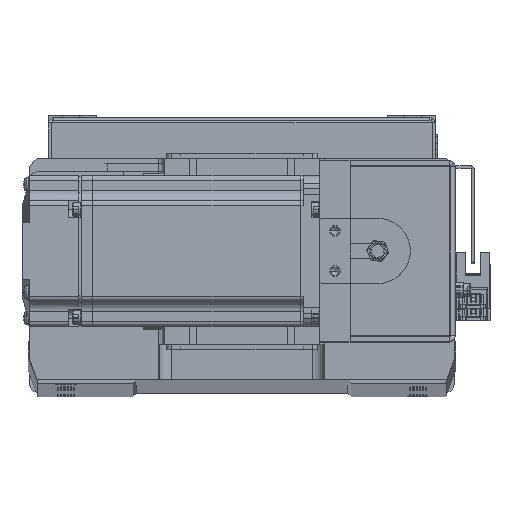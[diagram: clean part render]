
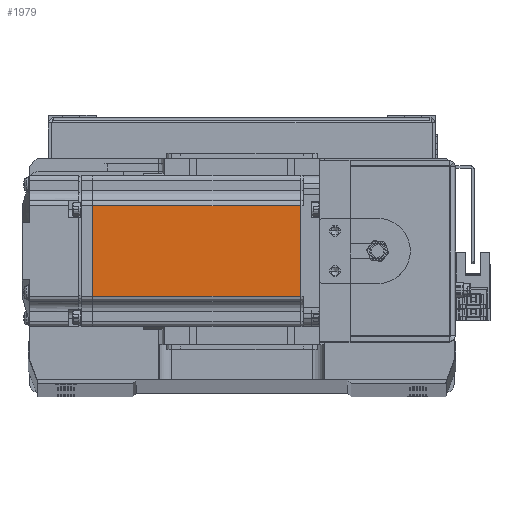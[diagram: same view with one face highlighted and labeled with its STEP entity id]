
A CAD part, top view. The second image highlights one B-rep face of the part: STEP entity #1979.
In plain terms, the highlighted planar face has unit normal (0, 0, 1) as drawn and (0, 1, 0) by its records, which use the part's own axes.
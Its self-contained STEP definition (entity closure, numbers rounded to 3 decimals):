
#1104 = CARTESIAN_POINT ( 'NONE',  ( -90.45, 30., -18. ) ) ;
#1172 = EDGE_CURVE ( 'NONE', #14876, #6880, #16034, .T. ) ;
#1979 = ADVANCED_FACE ( 'NONE', ( #27464 ), #36807, .T. ) ;
#2923 = ORIENTED_EDGE ( 'NONE', *, *, #40930, .T. ) ;
#5328 = LINE ( 'NONE', #37621, #41860 ) ;
#6880 = VERTEX_POINT ( 'NONE', #28726 ) ;
#7459 = VERTEX_POINT ( 'NONE', #1104 ) ;
#9756 = CARTESIAN_POINT ( 'NONE',  ( -6.5, 30., 18. ) ) ;
#9877 = VERTEX_POINT ( 'NONE', #21354 ) ;
#10359 = CARTESIAN_POINT ( 'NONE',  ( -6.5, 30., 25. ) ) ;
#10547 = CARTESIAN_POINT ( 'NONE',  ( -90.45, 30., 18. ) ) ;
#10789 = DIRECTION ( 'NONE',  ( 0., 1., 0. ) ) ;
#11626 = VECTOR ( 'NONE', #30760, 1000. ) ;
#14426 = DIRECTION ( 'NONE',  ( -1., 0., 0. ) ) ;
#14876 = VERTEX_POINT ( 'NONE', #10547 ) ;
#16034 = LINE ( 'NONE', #9756, #36734 ) ;
#20328 = DIRECTION ( 'NONE',  ( 0., 0., 1. ) ) ;
#21344 = CARTESIAN_POINT ( 'NONE',  ( -7.75, 30., 0. ) ) ;
#21354 = CARTESIAN_POINT ( 'NONE',  ( -7.75, 30., -18. ) ) ;
#21663 = LINE ( 'NONE', #24273, #11626 ) ;
#24273 = CARTESIAN_POINT ( 'NONE',  ( -90.45, 30., 0. ) ) ;
#24404 = ORIENTED_EDGE ( 'NONE', *, *, #42777, .F. ) ;
#25147 = AXIS2_PLACEMENT_3D ( 'NONE', #10359, #10789, #20328 ) ;
#27464 = FACE_OUTER_BOUND ( 'NONE', #40072, .T. ) ;
#27864 = DIRECTION ( 'NONE',  ( 0., 0., 1. ) ) ;
#28156 = ORIENTED_EDGE ( 'NONE', *, *, #39951, .T. ) ;
#28726 = CARTESIAN_POINT ( 'NONE',  ( -7.75, 30., 18. ) ) ;
#29442 = DIRECTION ( 'NONE',  ( 1., 0., 0. ) ) ;
#30760 = DIRECTION ( 'NONE',  ( 0., 0., 1. ) ) ;
#33635 = ORIENTED_EDGE ( 'NONE', *, *, #1172, .T. ) ;
#34588 = VECTOR ( 'NONE', #27864, 1000. ) ;
#36734 = VECTOR ( 'NONE', #29442, 1000. ) ;
#36807 = PLANE ( 'NONE',  #25147 ) ;
#37621 = CARTESIAN_POINT ( 'NONE',  ( -6.5, 30., -18. ) ) ;
#39951 = EDGE_CURVE ( 'NONE', #9877, #7459, #5328, .T. ) ;
#40072 = EDGE_LOOP ( 'NONE', ( #24404, #28156, #2923, #33635 ) ) ;
#40930 = EDGE_CURVE ( 'NONE', #7459, #14876, #21663, .T. ) ;
#41120 = LINE ( 'NONE', #21344, #34588 ) ;
#41860 = VECTOR ( 'NONE', #14426, 1000. ) ;
#42777 = EDGE_CURVE ( 'NONE', #9877, #6880, #41120, .T. ) ;
